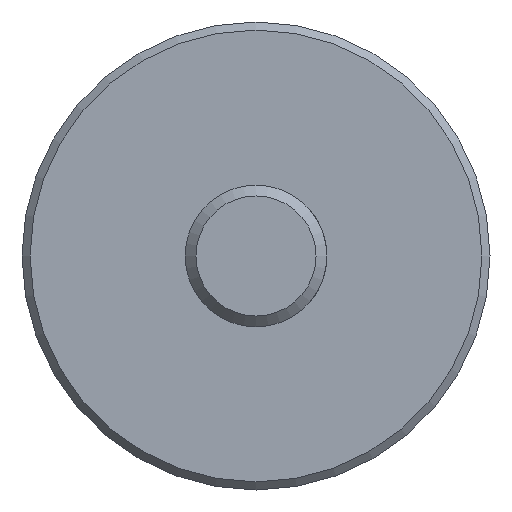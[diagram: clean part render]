
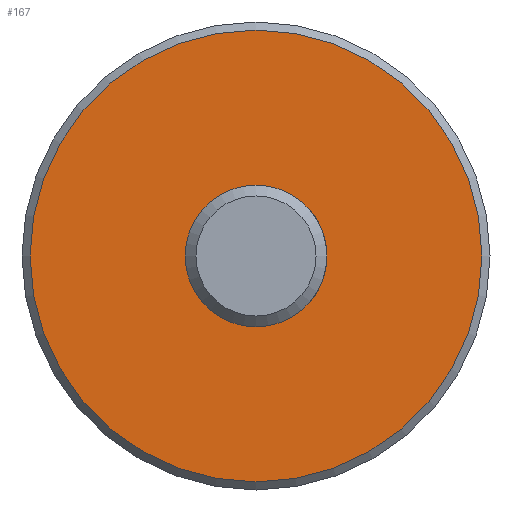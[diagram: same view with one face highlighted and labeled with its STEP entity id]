
A CAD part, front view. The second image highlights one B-rep face of the part: STEP entity #167.
In plain terms, the highlighted planar face has unit normal (0, -1, 0).
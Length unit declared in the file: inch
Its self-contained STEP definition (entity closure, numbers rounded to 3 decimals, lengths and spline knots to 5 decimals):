
#10 = FACE_OUTER_BOUND ( 'NONE', #323, .T. ) ;
#48 = ORIENTED_EDGE ( 'NONE', *, *, #429, .F. ) ;
#80 = DIRECTION ( 'NONE',  ( 0., 1., 0. ) ) ;
#84 = CARTESIAN_POINT ( 'NONE',  ( 0., 3.33, 0.3937 ) ) ;
#87 = CARTESIAN_POINT ( 'NONE',  ( 0.3937, 3.33, 0. ) ) ;
#110 = CIRCLE ( 'NONE', #236, 1.255 ) ;
#123 = DIRECTION ( 'NONE',  ( 0., 0., 1. ) ) ;
#167 = ADVANCED_FACE ( 'NONE', ( #10, #362 ), #446, .F. ) ;
#179 = VERTEX_POINT ( 'NONE', #84 ) ;
#201 = AXIS2_PLACEMENT_3D ( 'NONE', #235, #373, #325 ) ;
#213 = CARTESIAN_POINT ( 'NONE',  ( 0., 3.33, 0. ) ) ;
#235 = CARTESIAN_POINT ( 'NONE',  ( 0., 3.33, 0. ) ) ;
#236 = AXIS2_PLACEMENT_3D ( 'NONE', #213, #538, #123 ) ;
#239 = EDGE_LOOP ( 'NONE', ( #548 ) ) ;
#291 = EDGE_CURVE ( 'NONE', #179, #179, #451, .T. ) ;
#323 = EDGE_LOOP ( 'NONE', ( #48 ) ) ;
#325 = DIRECTION ( 'NONE',  ( 0., 0., 1. ) ) ;
#355 = DIRECTION ( 'NONE',  ( 0., 0., 1. ) ) ;
#359 = CARTESIAN_POINT ( 'NONE',  ( 0., 3.33, 1.255 ) ) ;
#362 = FACE_BOUND ( 'NONE', #239, .T. ) ;
#373 = DIRECTION ( 'NONE',  ( 0., 1., 0. ) ) ;
#374 = AXIS2_PLACEMENT_3D ( 'NONE', #87, #80, #355 ) ;
#401 = VERTEX_POINT ( 'NONE', #359 ) ;
#429 = EDGE_CURVE ( 'NONE', #401, #401, #110, .T. ) ;
#446 = PLANE ( 'NONE',  #374 ) ;
#451 = CIRCLE ( 'NONE', #201, 0.3937 ) ;
#538 = DIRECTION ( 'NONE',  ( 0., 1., 0. ) ) ;
#548 = ORIENTED_EDGE ( 'NONE', *, *, #291, .T. ) ;
